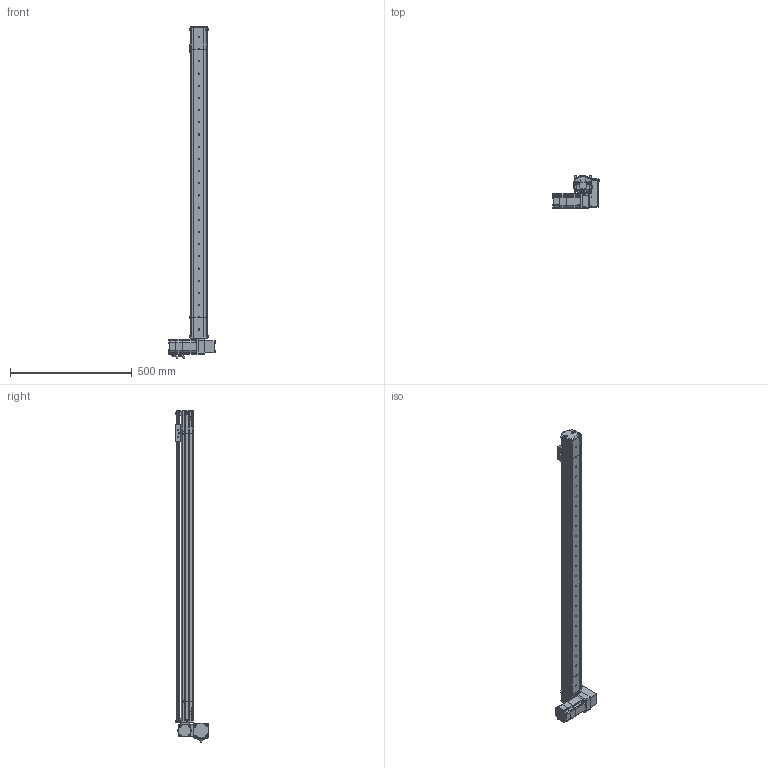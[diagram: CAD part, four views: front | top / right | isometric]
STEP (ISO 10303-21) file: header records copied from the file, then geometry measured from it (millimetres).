
FILE_DESCRIPTION (( 'STEP AP214' ), '1' );
FILE_NAME ('S07 TBN LU S1100.STEP', '2010-06-29T11:52:46', ( 'Conseil Régional Haute-Normandie' ), ( 'Conseil Régional Haute-Normandie' ), 'SwSTEP 2.0', 'SolidWorks 2010', '' );
FILE_SCHEMA (( 'AUTOMOTIVE_DESIGN' ));
Length unit declared in the file: millimetre
Products named in the file (41): Conecteur2 60BLDC_Default; S07 TB tail (78)_Default; Poulie_Default; VisM3_Default; Cvis M5 L30_Default; Vis M5 L16-2_Default; plaque de bout_Default; couvercle tail TB; corp tail TB_Default; T皻e de poulie_Default; Axe 60BLDC_Default; couvercle S07 course 1100 ; guide; Chariot; vis M5 L16_Default; P2 90A_Default; S07 LU(146)_Default; couvercle moteur S07 TB; Poulie head_Default; cache t皻e axe_Default; cache t皻e_Default; S07 TBN LU S1100; couroie tail_Default; CHariot_Default; Course C L1100_Default; corp moteur TB(146)_Default; plaque de bout LU_Default; Corp S07 course 1100_Default; Couroie  course 1100_Default; Couroie t皻e_Default; vis M5 L5_Default; Plaque racord_Default; Pièce5^S07 LU(146); renvoi LU_Default; GMB 60 90 310_Default; P1_Default; P3 90A_Default; P4_Default; vis M5 L12_Default; Conecteur 60BLDC_Default
Assembly tree (80 placements, depth 4):
  S07 TBN LU S1100
    S07 TB tail (78)_Default
      couroie tail_Default
      vis M5 L12_Default  x10
      couvercle tail TB
      Poulie_Default
        Poulie_Default
        T皻e de poulie_Default
      corp tail TB_Default
      plaque de bout_Default
    Course C L1100_Default
      Corp S07 course 1100_Default
      Couroie  course 1100_Default
      couvercle S07 course 1100 
    S07 LU(146)_Default
      vis M5 L12_Default  x6
      Vis M5 L16-2_Default  x8
      cache t皻e_Default  x2
      cache t皻e axe_Default
      vis M5 L5_Default  x6
      Poulie head_Default
      Cvis M5 L30_Default  x2
      Couroie t皻e_Default
      renvoi LU_Default
      plaque de bout LU_Default
      couvercle moteur S07 TB
      corp moteur TB(146)_Default
      Plaque racord_Default
      GMB 60 90 310_Default
        VisM3_Default  x12
        Conecteur 60BLDC_Default
        P3 90A_Default
        Conecteur2 60BLDC_Default
        Axe 60BLDC_Default
        P2 90A_Default
        P1_Default
        P4_Default
    CHariot_Default
      guide
      vis M5 L16_Default  x2
      Chariot
  Pièce5^S07 LU(146)
Bounding box: 190.2 x 134.7 x 1362 mm (x, y, z)
Volume: 2799125.6 mm3; surface area: 1202726.1 mm2
Topology: 102 solids, 102 shells, 3940 faces, 9816 edges, 6341 vertices
Faces by surface type: plane 2236, cylinder 774, bspline 677, cone 125, torus 124, sphere 4
Entity records: 167777 total; most frequent: CARTESIAN_POINT 75291, ORIENTED_EDGE 15544, DIRECTION 12407, EDGE_CURVE 7772, VERTEX_POINT 5129, VECTOR 5061, LINE 5061, AXIS2_PLACEMENT_3D 3673
